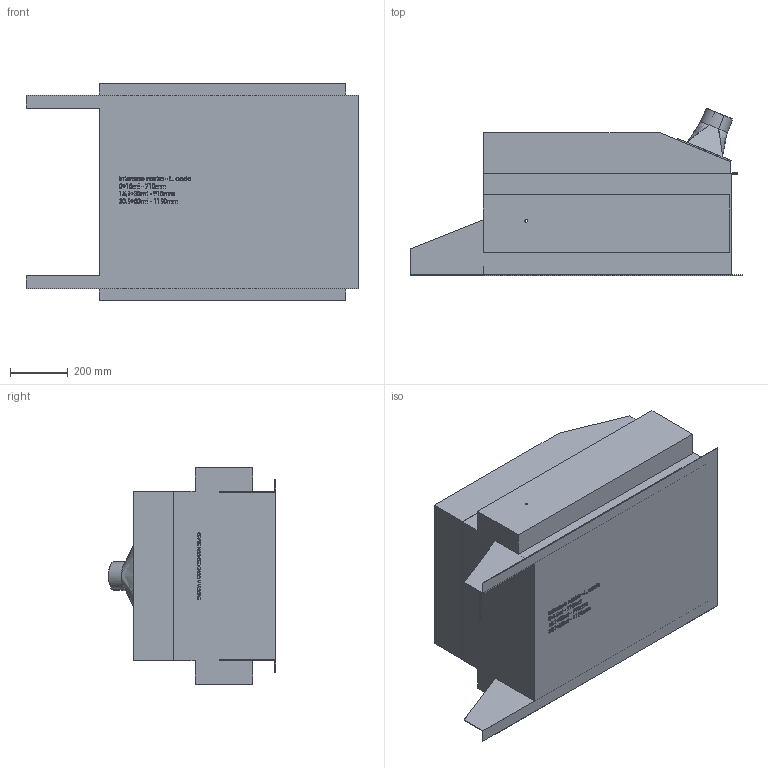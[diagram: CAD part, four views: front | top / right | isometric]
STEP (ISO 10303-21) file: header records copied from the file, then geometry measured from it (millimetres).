
FILE_DESCRIPTION (( 'STEP AP203' ), '1' );
FILE_NAME ('30764.step', '2019-03-14T14:32:41', ( 'PC' ), ( 'Hewlett-Packard Company' ), 'SwSTEP 2.0', 'SolidWorks 2016', '' );
FILE_SCHEMA (( 'CONFIG_CONTROL_DESIGN' ));
Products named in the file (1): 30764
Bounding box: 1150 x 579.42 x 750 mm (x, y, z)
Volume: 270188995.8 mm3; surface area: 4435518.3 mm2
Topology: 3 solids, 3 shells, 1165 faces, 3095 edges, 2057 vertices
Faces by surface type: plane 700, bspline 443, cylinder 20, cone 2
Entity records: 64426 total; most frequent: CARTESIAN_POINT 38359, ORIENTED_EDGE 6186, DIRECTION 3689, EDGE_CURVE 3093, VECTOR 2163, LINE 2163, VERTEX_POINT 2057, EDGE_LOOP 1304
